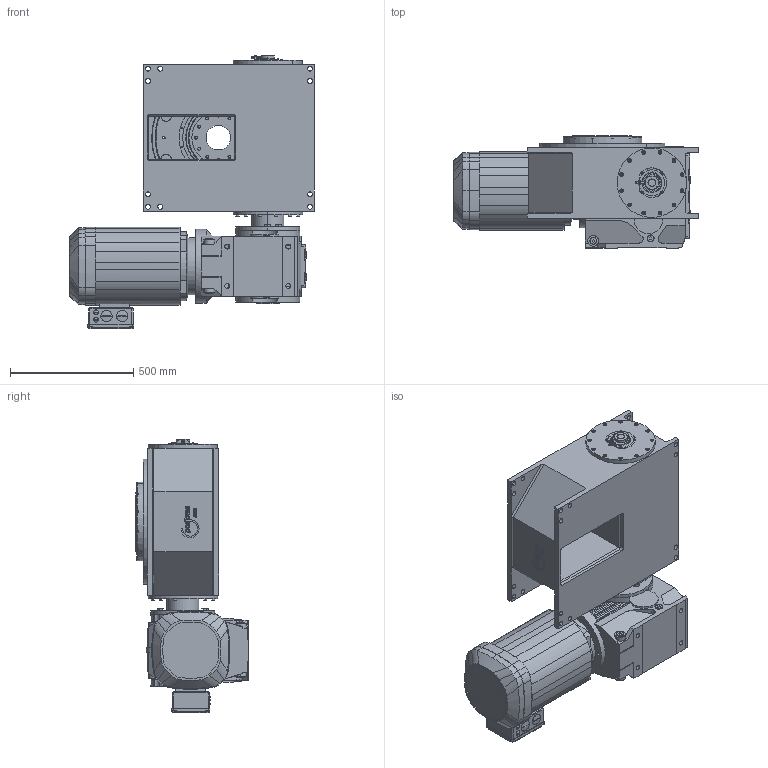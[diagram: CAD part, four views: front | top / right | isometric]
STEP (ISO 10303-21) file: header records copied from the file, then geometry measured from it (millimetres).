
FILE_DESCRIPTION (( 'STEP AP214' ), '1' );
FILE_NAME ('M510_SEW_KA97DRN160M6_D1_08.STEP', '2020-06-17T12:49:29', ( '' ), ( '' ), 'SwSTEP 2.0', 'SolidWorks 2020', '' );
FILE_SCHEMA (( 'AUTOMOTIVE_DESIGN' ));
Length unit declared in the file: millimetre
Products named in the file (1): M510_SEW_KA97DRN160M6_D1_08
Bounding box: 995.5 x 456.25 x 1109.47 mm (x, y, z)
Surface area: 3744319.9 mm2 (no closed solid volume)
Topology: 0 solids, 99 shells, 1556 faces, 4988 edges, 3482 vertices
Faces by surface type: plane 738, cylinder 565, torus 102, cone 80, bspline 55, sphere 16
Entity records: 79633 total; most frequent: CARTESIAN_POINT 18553, DIRECTION 9269, ORIENTED_EDGE 8276, EDGE_CURVE 4978, VERTEX_POINT 3482, AXIS2_PLACEMENT_3D 3269, LINE 2731, VECTOR 2731
